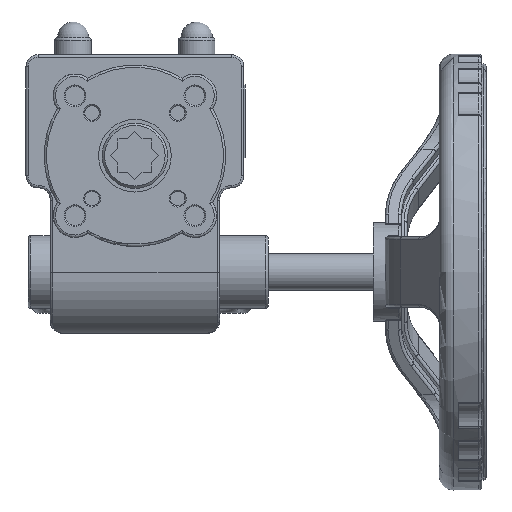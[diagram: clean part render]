
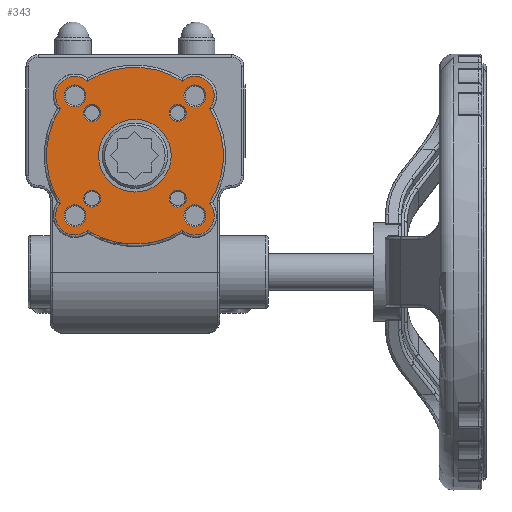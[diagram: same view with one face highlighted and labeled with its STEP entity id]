
A CAD part, front view. The second image highlights one B-rep face of the part: STEP entity #343.
In plain terms, the highlighted planar face has unit normal (0, -1, 0).
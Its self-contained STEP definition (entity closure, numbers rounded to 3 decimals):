
#343=ADVANCED_FACE('',(#9151,#9153,#9155,#9157,#9159,#9161,#9163,#9165,#9167,#9169),
#9171,.T.);
#9151=FACE_BOUND('',#9152,.T.);
#9152=EDGE_LOOP('',(#23445,#23446,#23447,#23448,#23449,#23450,#23451,#23452));
#9153=FACE_BOUND('',#9154,.T.);
#9154=EDGE_LOOP('',(#23453));
#9155=FACE_BOUND('',#9156,.T.);
#9156=EDGE_LOOP('',(#23454));
#9157=FACE_BOUND('',#9158,.T.);
#9158=EDGE_LOOP('',(#23455));
#9159=FACE_BOUND('',#9160,.T.);
#9160=EDGE_LOOP('',(#23456));
#9161=FACE_BOUND('',#9162,.T.);
#9162=EDGE_LOOP('',(#23457));
#9163=FACE_BOUND('',#9164,.T.);
#9164=EDGE_LOOP('',(#23458));
#9165=FACE_BOUND('',#9166,.T.);
#9166=EDGE_LOOP('',(#23459));
#9167=FACE_BOUND('',#9168,.T.);
#9168=EDGE_LOOP('',(#23460));
#9169=FACE_BOUND('',#9170,.T.);
#9170=EDGE_LOOP('',(#23461));
#9171=PLANE('',#9172);
#9172=AXIS2_PLACEMENT_3D('',#9173,#9174,#9175);
#9173=CARTESIAN_POINT('',(0.,0.,0.));
#9174=DIRECTION('',(0.,-1.,0.));
#9175=DIRECTION('',(1.,0.,0.));
#23445=ORIENTED_EDGE('',*,*,#28219,.T.);
#23446=ORIENTED_EDGE('',*,*,#28220,.F.);
#23447=ORIENTED_EDGE('',*,*,#28221,.T.);
#23448=ORIENTED_EDGE('',*,*,#28222,.F.);
#23449=ORIENTED_EDGE('',*,*,#28223,.T.);
#23450=ORIENTED_EDGE('',*,*,#28224,.F.);
#23451=ORIENTED_EDGE('',*,*,#28225,.T.);
#23452=ORIENTED_EDGE('',*,*,#28226,.F.);
#23453=ORIENTED_EDGE('',*,*,#28227,.F.);
#23454=ORIENTED_EDGE('',*,*,#28228,.F.);
#23455=ORIENTED_EDGE('',*,*,#28229,.F.);
#23456=ORIENTED_EDGE('',*,*,#28230,.F.);
#23457=ORIENTED_EDGE('',*,*,#28218,.T.);
#23458=ORIENTED_EDGE('',*,*,#28231,.F.);
#23459=ORIENTED_EDGE('',*,*,#28232,.F.);
#23460=ORIENTED_EDGE('',*,*,#28233,.F.);
#23461=ORIENTED_EDGE('',*,*,#28234,.F.);
#28218=EDGE_CURVE('',#30667,#30667,#30668,.T.);
#28219=EDGE_CURVE('',#30669,#30670,#30671,.T.);
#28220=EDGE_CURVE('',#30672,#30670,#30673,.T.);
#28221=EDGE_CURVE('',#30672,#30674,#30675,.T.);
#28222=EDGE_CURVE('',#30676,#30674,#30677,.T.);
#28223=EDGE_CURVE('',#30676,#30678,#30679,.T.);
#28224=EDGE_CURVE('',#30680,#30678,#30681,.T.);
#28225=EDGE_CURVE('',#30680,#30682,#30683,.T.);
#28226=EDGE_CURVE('',#30669,#30682,#30684,.T.);
#28227=EDGE_CURVE('',#30685,#30685,#30686,.T.);
#28228=EDGE_CURVE('',#30687,#30687,#30688,.T.);
#28229=EDGE_CURVE('',#30689,#30689,#30690,.T.);
#28230=EDGE_CURVE('',#30691,#30691,#30692,.T.);
#28231=EDGE_CURVE('',#30693,#30693,#30694,.T.);
#28232=EDGE_CURVE('',#30695,#30695,#30696,.T.);
#28233=EDGE_CURVE('',#30697,#30697,#30698,.T.);
#28234=EDGE_CURVE('',#30699,#30699,#30700,.T.);
#30667=VERTEX_POINT('',#34760);
#30668=CIRCLE('',#34761,15.);
#30669=VERTEX_POINT('',#34765);
#30670=VERTEX_POINT('',#34766);
#30671=CIRCLE('',#34767,8.);
#30672=VERTEX_POINT('',#34771);
#30673=CIRCLE('',#34772,36.5);
#30674=VERTEX_POINT('',#34776);
#30675=CIRCLE('',#34777,8.);
#30676=VERTEX_POINT('',#34781);
#30677=CIRCLE('',#34782,36.5);
#30678=VERTEX_POINT('',#34786);
#30679=CIRCLE('',#34787,8.);
#30680=VERTEX_POINT('',#34791);
#30681=CIRCLE('',#34792,36.5);
#30682=VERTEX_POINT('',#34796);
#30683=CIRCLE('',#34797,8.);
#30684=CIRCLE('',#34801,36.5);
#30685=VERTEX_POINT('',#34805);
#30686=CIRCLE('',#34806,3.5);
#30687=VERTEX_POINT('',#34810);
#30688=CIRCLE('',#34811,4.5);
#30689=VERTEX_POINT('',#34815);
#30690=CIRCLE('',#34816,4.5);
#30691=VERTEX_POINT('',#34820);
#30692=CIRCLE('',#34821,4.5);
#30693=VERTEX_POINT('',#34825);
#30694=CIRCLE('',#34826,3.5);
#30695=VERTEX_POINT('',#34830);
#30696=CIRCLE('',#34831,3.5);
#30697=VERTEX_POINT('',#34835);
#30698=CIRCLE('',#34836,3.5);
#30699=VERTEX_POINT('',#34840);
#30700=CIRCLE('',#34841,4.5);
#34760=CARTESIAN_POINT('',(15.,0.,0.));
#34761=AXIS2_PLACEMENT_3D('',#34762,#34763,#34764);
#34762=CARTESIAN_POINT('',(0.,0.,0.));
#34763=DIRECTION('',(0.,1.,0.));
#34764=DIRECTION('',(1.,0.,0.));
#34765=CARTESIAN_POINT('',(19.546,0.,-30.826));
#34766=CARTESIAN_POINT('',(30.826,0.,-19.546));
#34767=AXIS2_PLACEMENT_3D('',#34768,#34769,#34770);
#34768=CARTESIAN_POINT('',(24.749,0.,-24.749));
#34769=DIRECTION('',(0.,-1.,0.));
#34770=DIRECTION('',(-0.65,0.,-0.76));
#34771=CARTESIAN_POINT('',(30.826,0.,19.546));
#34772=AXIS2_PLACEMENT_3D('',#34773,#34774,#34775);
#34773=CARTESIAN_POINT('',(0.,0.,0.));
#34774=DIRECTION('',(0.,1.,0.));
#34775=DIRECTION('',(0.845,0.,0.535));
#34776=CARTESIAN_POINT('',(19.546,0.,30.826));
#34777=AXIS2_PLACEMENT_3D('',#34778,#34779,#34780);
#34778=CARTESIAN_POINT('',(24.749,0.,24.749));
#34779=DIRECTION('',(0.,-1.,0.));
#34780=DIRECTION('',(0.76,0.,-0.65));
#34781=CARTESIAN_POINT('',(-19.546,0.,30.826));
#34782=AXIS2_PLACEMENT_3D('',#34783,#34784,#34785);
#34783=CARTESIAN_POINT('',(0.,0.,0.));
#34784=DIRECTION('',(0.,1.,0.));
#34785=DIRECTION('',(-0.535,0.,0.845));
#34786=CARTESIAN_POINT('',(-30.826,0.,19.546));
#34787=AXIS2_PLACEMENT_3D('',#34788,#34789,#34790);
#34788=CARTESIAN_POINT('',(-24.749,0.,24.749));
#34789=DIRECTION('',(0.,-1.,0.));
#34790=DIRECTION('',(0.65,0.,0.76));
#34791=CARTESIAN_POINT('',(-30.826,0.,-19.546));
#34792=AXIS2_PLACEMENT_3D('',#34793,#34794,#34795);
#34793=CARTESIAN_POINT('',(0.,0.,0.));
#34794=DIRECTION('',(0.,1.,0.));
#34795=DIRECTION('',(-0.845,0.,-0.535));
#34796=CARTESIAN_POINT('',(-19.546,0.,-30.826));
#34797=AXIS2_PLACEMENT_3D('',#34798,#34799,#34800);
#34798=CARTESIAN_POINT('',(-24.749,0.,-24.749));
#34799=DIRECTION('',(0.,-1.,0.));
#34800=DIRECTION('',(-0.76,0.,0.65));
#34801=AXIS2_PLACEMENT_3D('',#34802,#34803,#34804);
#34802=CARTESIAN_POINT('',(0.,0.,0.));
#34803=DIRECTION('',(0.,1.,0.));
#34804=DIRECTION('',(0.535,0.,-0.845));
#34805=CARTESIAN_POINT('',(21.178,0.,17.678));
#34806=AXIS2_PLACEMENT_3D('',#34807,#34808,#34809);
#34807=CARTESIAN_POINT('',(17.678,0.,17.678));
#34808=DIRECTION('',(0.,-1.,0.));
#34809=DIRECTION('',(1.,0.,0.));
#34810=CARTESIAN_POINT('',(29.249,0.,-24.749));
#34811=AXIS2_PLACEMENT_3D('',#34812,#34813,#34814);
#34812=CARTESIAN_POINT('',(24.749,0.,-24.749));
#34813=DIRECTION('',(0.,-1.,0.));
#34814=DIRECTION('',(1.,0.,0.));
#34815=CARTESIAN_POINT('',(-20.249,0.,-24.749));
#34816=AXIS2_PLACEMENT_3D('',#34817,#34818,#34819);
#34817=CARTESIAN_POINT('',(-24.749,0.,-24.749));
#34818=DIRECTION('',(0.,-1.,0.));
#34819=DIRECTION('',(1.,0.,0.));
#34820=CARTESIAN_POINT('',(-20.249,0.,24.749));
#34821=AXIS2_PLACEMENT_3D('',#34822,#34823,#34824);
#34822=CARTESIAN_POINT('',(-24.749,0.,24.749));
#34823=DIRECTION('',(0.,-1.,0.));
#34824=DIRECTION('',(1.,0.,0.));
#34825=CARTESIAN_POINT('',(-14.178,0.,17.678));
#34826=AXIS2_PLACEMENT_3D('',#34827,#34828,#34829);
#34827=CARTESIAN_POINT('',(-17.678,0.,17.678));
#34828=DIRECTION('',(0.,-1.,0.));
#34829=DIRECTION('',(1.,0.,0.));
#34830=CARTESIAN_POINT('',(-14.178,0.,-17.678));
#34831=AXIS2_PLACEMENT_3D('',#34832,#34833,#34834);
#34832=CARTESIAN_POINT('',(-17.678,0.,-17.678));
#34833=DIRECTION('',(0.,-1.,0.));
#34834=DIRECTION('',(1.,0.,0.));
#34835=CARTESIAN_POINT('',(21.178,0.,-17.678));
#34836=AXIS2_PLACEMENT_3D('',#34837,#34838,#34839);
#34837=CARTESIAN_POINT('',(17.678,0.,-17.678));
#34838=DIRECTION('',(0.,-1.,0.));
#34839=DIRECTION('',(1.,0.,0.));
#34840=CARTESIAN_POINT('',(29.249,0.,24.749));
#34841=AXIS2_PLACEMENT_3D('',#34842,#34843,#34844);
#34842=CARTESIAN_POINT('',(24.749,0.,24.749));
#34843=DIRECTION('',(0.,-1.,0.));
#34844=DIRECTION('',(1.,0.,0.));
